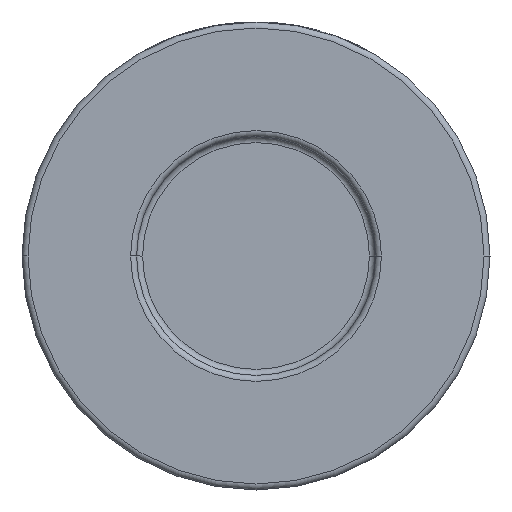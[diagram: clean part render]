
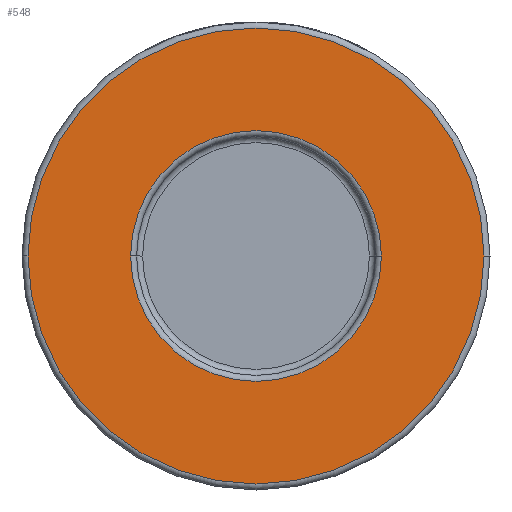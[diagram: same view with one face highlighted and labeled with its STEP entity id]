
A CAD part, front view. The second image highlights one B-rep face of the part: STEP entity #548.
In plain terms, the highlighted planar face has unit normal (0, -1, 0).
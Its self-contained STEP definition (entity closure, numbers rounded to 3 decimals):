
#143 = CIRCLE ( 'NONE', #4509, 20.9 ) ;
#209 = DIRECTION ( 'NONE',  ( 1., 0., 0. ) ) ;
#218 = CARTESIAN_POINT ( 'NONE',  ( 0., -26., 0. ) ) ;
#441 = CARTESIAN_POINT ( 'NONE',  ( -38., -26., 0. ) ) ;
#532 = DIRECTION ( 'NONE',  ( 0., -1., 0. ) ) ;
#548 = ADVANCED_FACE ( 'NONE', ( #4491, #937 ), #2033, .T. ) ;
#790 = CARTESIAN_POINT ( 'NONE',  ( 20.9, -26., 0. ) ) ;
#871 = DIRECTION ( 'NONE',  ( 1., 0., 0. ) ) ;
#891 = VERTEX_POINT ( 'NONE', #2579 ) ;
#937 = FACE_OUTER_BOUND ( 'NONE', #4028, .T. ) ;
#1020 = VERTEX_POINT ( 'NONE', #441 ) ;
#1271 = CARTESIAN_POINT ( 'NONE',  ( -20.9, -26., 0. ) ) ;
#1347 = VERTEX_POINT ( 'NONE', #1271 ) ;
#1618 = DIRECTION ( 'NONE',  ( 1., 0., 0. ) ) ;
#1625 = DIRECTION ( 'NONE',  ( 0., -1., 0. ) ) ;
#1944 = CARTESIAN_POINT ( 'NONE',  ( 0., -26., 0. ) ) ;
#1959 = AXIS2_PLACEMENT_3D ( 'NONE', #2008, #3422, #871 ) ;
#1995 = AXIS2_PLACEMENT_3D ( 'NONE', #4433, #532, #209 ) ;
#2008 = CARTESIAN_POINT ( 'NONE',  ( 39., -26., 0. ) ) ;
#2033 = PLANE ( 'NONE',  #1959 ) ;
#2117 = EDGE_LOOP ( 'NONE', ( #2461, #3380 ) ) ;
#2461 = ORIENTED_EDGE ( 'NONE', *, *, #4099, .T. ) ;
#2532 = ORIENTED_EDGE ( 'NONE', *, *, #3837, .T. ) ;
#2579 = CARTESIAN_POINT ( 'NONE',  ( 38., -26., 0. ) ) ;
#2765 = EDGE_CURVE ( 'NONE', #1347, #3081, #143, .T. ) ;
#3017 = DIRECTION ( 'NONE',  ( 0., 1., 0. ) ) ;
#3076 = DIRECTION ( 'NONE',  ( 0., 1., 0. ) ) ;
#3081 = VERTEX_POINT ( 'NONE', #790 ) ;
#3380 = ORIENTED_EDGE ( 'NONE', *, *, #2765, .T. ) ;
#3422 = DIRECTION ( 'NONE',  ( 0., -1., 0. ) ) ;
#3423 = CARTESIAN_POINT ( 'NONE',  ( 0., -26., 0. ) ) ;
#3435 = DIRECTION ( 'NONE',  ( 1., 0., 0. ) ) ;
#3545 = AXIS2_PLACEMENT_3D ( 'NONE', #1944, #3017, #1618 ) ;
#3837 = EDGE_CURVE ( 'NONE', #1020, #891, #4291, .T. ) ;
#4028 = EDGE_LOOP ( 'NONE', ( #4383, #2532 ) ) ;
#4067 = AXIS2_PLACEMENT_3D ( 'NONE', #218, #1625, #3435 ) ;
#4099 = EDGE_CURVE ( 'NONE', #3081, #1347, #4220, .T. ) ;
#4124 = EDGE_CURVE ( 'NONE', #891, #1020, #4443, .T. ) ;
#4164 = DIRECTION ( 'NONE',  ( 1., 0., 0. ) ) ;
#4220 = CIRCLE ( 'NONE', #3545, 20.9 ) ;
#4291 = CIRCLE ( 'NONE', #4067, 38. ) ;
#4383 = ORIENTED_EDGE ( 'NONE', *, *, #4124, .T. ) ;
#4433 = CARTESIAN_POINT ( 'NONE',  ( 0., -26., 0. ) ) ;
#4443 = CIRCLE ( 'NONE', #1995, 38. ) ;
#4491 = FACE_BOUND ( 'NONE', #2117, .T. ) ;
#4509 = AXIS2_PLACEMENT_3D ( 'NONE', #3423, #3076, #4164 ) ;
